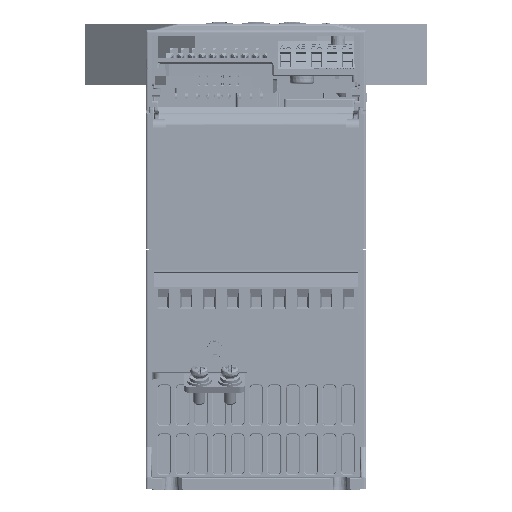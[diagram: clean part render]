
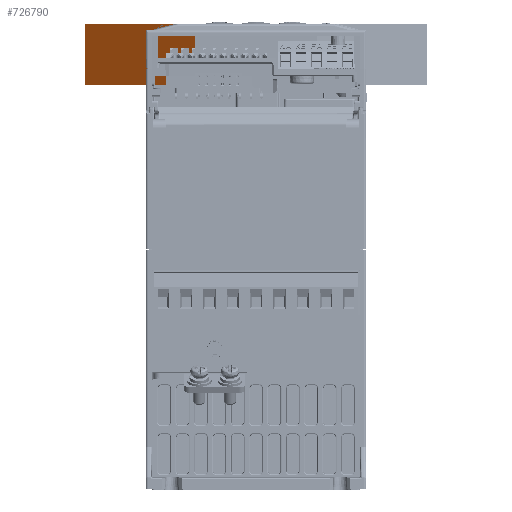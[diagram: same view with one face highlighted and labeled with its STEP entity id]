
A CAD part, front view. The second image highlights one B-rep face of the part: STEP entity #726790.
In plain terms, the highlighted planar face has unit normal (-0.643, -0.766, 0).
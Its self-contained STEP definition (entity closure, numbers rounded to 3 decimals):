
#726701=DIRECTION('',(0.,0.,-1.));
#726702=VECTOR('',#726701,20.);
#726703=CARTESIAN_POINT('',(-20.,-100.,47.));
#726704=LINE('',#726703,#726702);
#726708=DIRECTION('',(0.766,-0.643,0.));
#726709=VECTOR('',#726708,46.672);
#726710=CARTESIAN_POINT('',(-55.753,-70.,47.));
#726711=LINE('',#726710,#726709);
#726715=DIRECTION('',(-0.766,0.643,0.));
#726716=VECTOR('',#726715,46.672);
#726717=CARTESIAN_POINT('',(-20.,-100.,27.));
#726718=LINE('',#726717,#726716);
#726722=DIRECTION('',(0.,0.,1.));
#726723=VECTOR('',#726722,20.);
#726724=CARTESIAN_POINT('',(-55.753,-70.,27.));
#726725=LINE('',#726724,#726723);
#726729=CARTESIAN_POINT('',(-55.753,-70.,47.));
#726730=CARTESIAN_POINT('',(-20.,-100.,47.));
#726731=VERTEX_POINT('',#726729);
#726732=VERTEX_POINT('',#726730);
#726737=CARTESIAN_POINT('',(-55.753,-70.,27.));
#726738=CARTESIAN_POINT('',(-20.,-100.,27.));
#726739=VERTEX_POINT('',#726737);
#726740=VERTEX_POINT('',#726738);
#726776=CARTESIAN_POINT('',(-55.753,-70.,47.));
#726777=DIRECTION('',(-0.643,-0.766,0.));
#726778=DIRECTION('',(0.766,-0.643,0.));
#726779=AXIS2_PLACEMENT_3D('',#726776,#726777,#726778);
#726780=PLANE('',#726779);
#726782=ORIENTED_EDGE('',*,*,#726781,.T.);
#726783=ORIENTED_EDGE('',*,*,#726771,.T.);
#726785=ORIENTED_EDGE('',*,*,#726784,.T.);
#726787=ORIENTED_EDGE('',*,*,#726786,.T.);
#726788=EDGE_LOOP('',(#726782,#726783,#726785,#726787));
#726789=FACE_OUTER_BOUND('',#726788,.F.);
#726790=ADVANCED_FACE('',(#726789),#726780,.T.);
#726771=EDGE_CURVE('',#726732,#726740,#726704,.T.);
#726781=EDGE_CURVE('',#726731,#726732,#726711,.T.);
#726784=EDGE_CURVE('',#726740,#726739,#726718,.T.);
#726786=EDGE_CURVE('',#726739,#726731,#726725,.T.);
